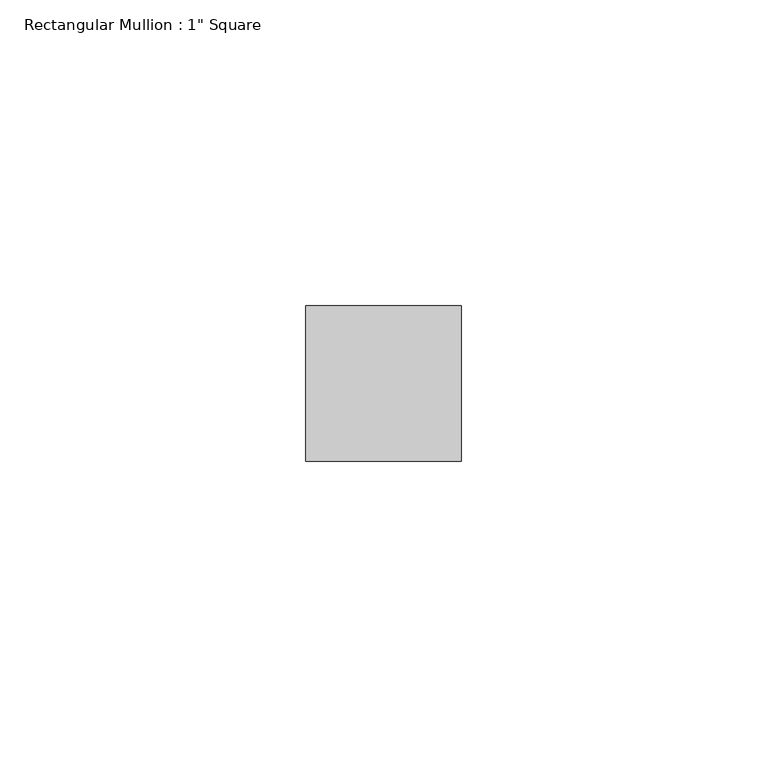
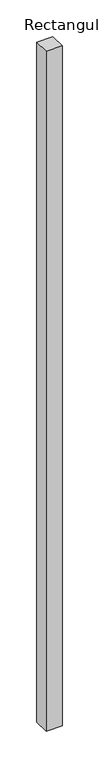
"""IFC4 building model written with IfcOpenShell, lengths in millimetres: member geometry."""

from ifc_helpers import new_model, si_unit, frame, origin, place, context, project, spatial, polyline, outline, extrude, source, transform, mapped, element, save


def member_459a8277(model_context):
    return source(origin(), model_context, "Body", "SweptSolid", [
        extrude(outline(polyline([(12.7, 12.7), (12.7, -12.7), (-12.7, -12.7), (-12.7, 12.7), (12.7, 12.7)])), frame((0.0, 0.0, -1130.5770019), z_axis=(0.0, 0.0, 1.0), x_axis=(1.0, 0.0, 0.0)), (0.0, 0.0, 1.0), 1130.5770019),
    ])


if __name__ == "__main__":
    model = new_model("IFC4")
    model_context = context("Model", 3, world=origin())
    ifc_project = project(units=[si_unit("LENGTHUNIT", "METRE", prefix="MILLI")], contexts=[model_context])
    site = spatial("IfcSite", under=ifc_project)
    building = spatial("IfcBuilding", under=site)
    placement = place(None, origin())
    member_shape = member_459a8277(model_context)
    element("IfcMember", 1, ObjectType="Rectangular Mullion : 1\" Square", at=placement, inside=building, context=model_context, shape_type="MappedRepresentation", body=[
        mapped(member_shape, transform((0.0, 0.0, 0.0), x_axis=(1.0, 0.0, 0.0), y_axis=(0.0, 1.0, 0.0), z_axis=(0.0, 0.0, 1.0))),
    ])
    save(model, "model.ifc")
